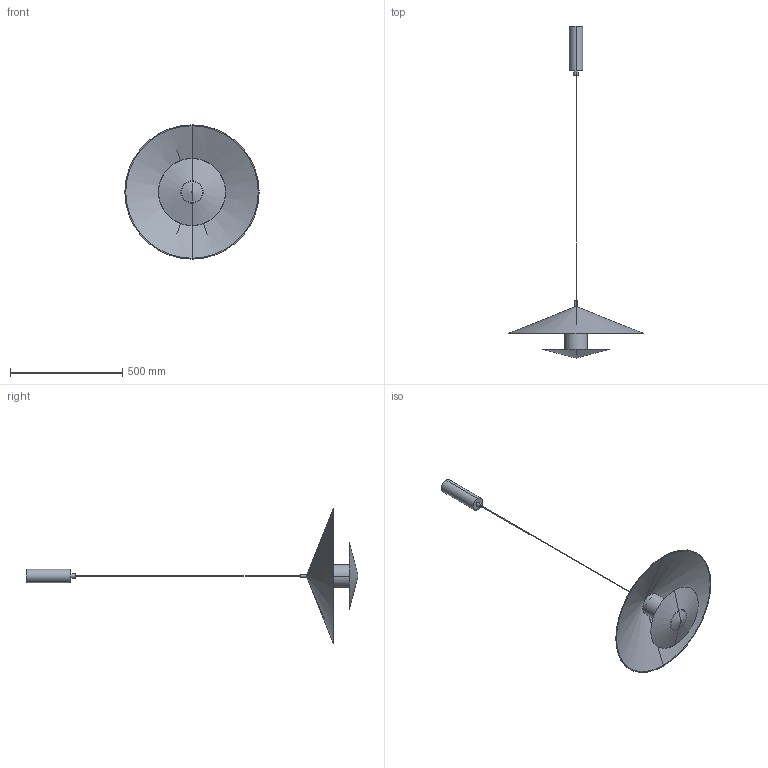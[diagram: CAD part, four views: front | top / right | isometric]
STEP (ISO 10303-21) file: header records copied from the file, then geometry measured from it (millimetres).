
FILE_DESCRIPTION (( 'STEP AP214' ), '1' );
FILE_NAME ('GEHIT_C1350_60.STEP', '2025-09-05T15:41:30', ( '' ), ( '' ), 'SwSTEP 2.0', 'SolidWorks 2018', '' );
FILE_SCHEMA (( 'AUTOMOTIVE_DESIGN' ));
Length unit declared in the file: millimetre
Products named in the file (1): GEHIT_C1350_60
Bounding box: 597.89 x 1477.24 x 597.89 mm (x, y, z)
Volume: 2115716.3 mm3; surface area: 944927 mm2
Topology: 8 solids, 8 shells, 47 faces, 82 edges, 50 vertices
Faces by surface type: plane 17, cylinder 14, cone 10, torus 6
Entity records: 1215 total; most frequent: DIRECTION 228, CARTESIAN_POINT 176, ORIENTED_EDGE 156, AXIS2_PLACEMENT_3D 102, EDGE_CURVE 78, CIRCLE 54, EDGE_LOOP 50, VERTEX_POINT 50
